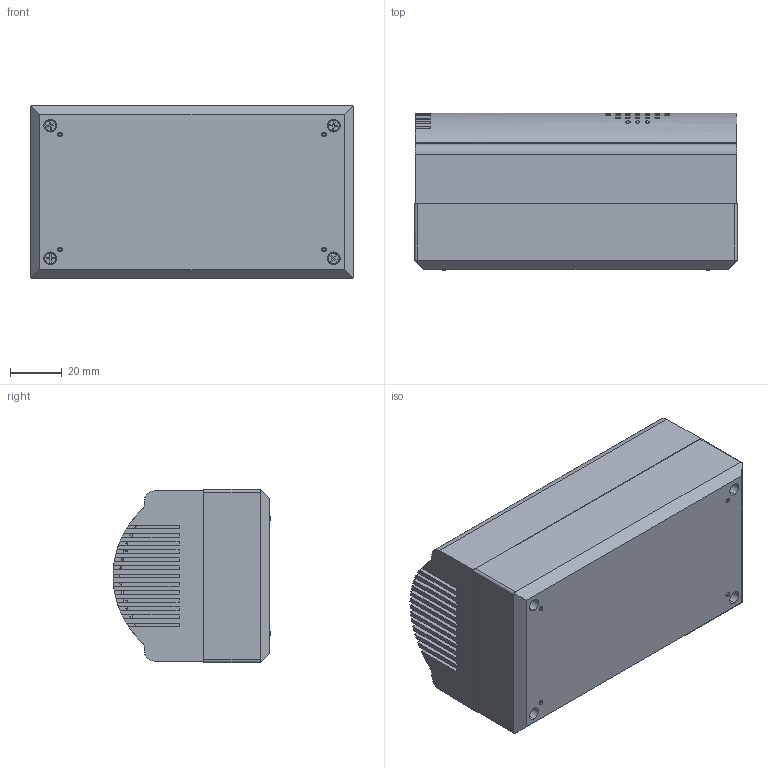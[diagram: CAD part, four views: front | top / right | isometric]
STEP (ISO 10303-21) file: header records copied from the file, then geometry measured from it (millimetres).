
FILE_DESCRIPTION (( 'STEP AP214' ), '1' );
FILE_NAME ('Conjunt PP7B.STEP', '2018-01-05T11:14:19', ( 'aaa' ), ( '' ), 'SwSTEP 2.0', 'SolidWorks 2013', '' );
FILE_SCHEMA (( 'AUTOMOTIVE_DESIGN' ));
Length unit declared in the file: millimetre
Products named in the file (5): Cargol 2,1x6,5 PP77B; Cargol 2,2x9,3 PP77B; Tapa PP77B; Cuerpo PP77B; Conjunt PP7B
Assembly tree (10 placements, depth 2):
  Conjunt PP7B
    Cuerpo PP77B
    Tapa PP77B
    Cargol 2,2x9,3 PP77B  x4
    Cargol 2,1x6,5 PP77B  x4
Bounding box: 125 x 61.03 x 67 mm (x, y, z)
Volume: 100937.9 mm3; surface area: 79703.5 mm2
Topology: 10 solids, 10 shells, 992 faces, 2473 edges, 1498 vertices
Faces by surface type: cone 416, plane 323, cylinder 245, torus 8
Entity records: 21343 total; most frequent: CARTESIAN_POINT 5778, ORIENTED_EDGE 3234, DIRECTION 3163, EDGE_CURVE 1617, AXIS2_PLACEMENT_3D 1125, VERTEX_POINT 1036, VECTOR 913, LINE 913
